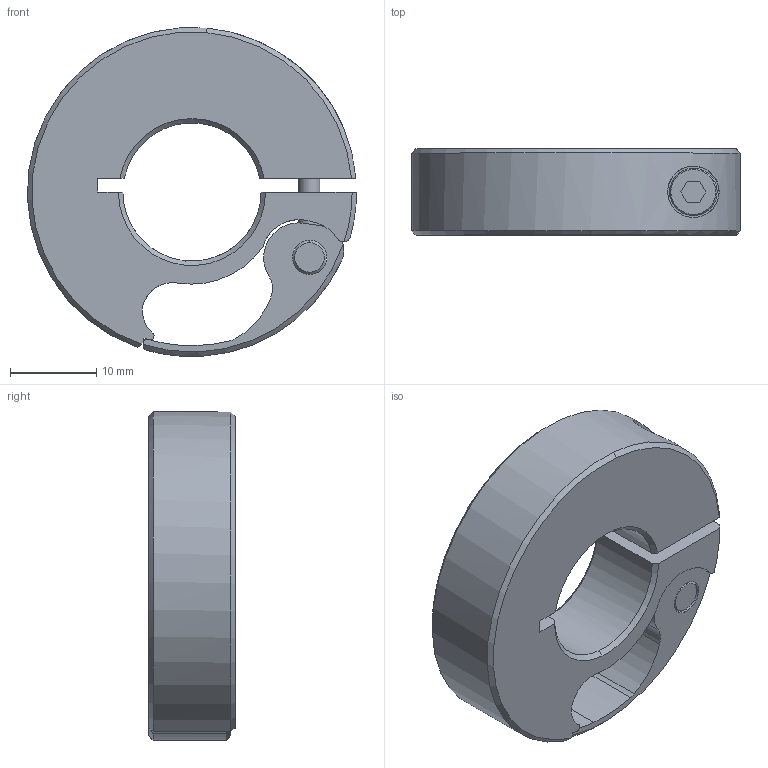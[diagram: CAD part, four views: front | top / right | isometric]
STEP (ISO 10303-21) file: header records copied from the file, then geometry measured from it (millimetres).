
FILE_DESCRIPTION (( 'STEP AP203' ), '1' );
FILE_NAME ('Ruland_MQCL-16-A.step', '2020-08-17T23:01:53', ( '' ), ( '' ), 'SwSTEP 2.0', 'SolidWorks 2020', '' );
FILE_SCHEMA (( 'CONFIG_CONTROL_DESIGN' ));
Length unit declared in the file: millimetre
Products named in the file (5): MQCL38-X-A_MQCL-16-A; QHAN38-A; QPIN38-SS; Ruland_MQCL-16-A; Metric Socket Head Cap Screws 1_CSM3_12
Assembly tree (4 placements, depth 2):
  Ruland_MQCL-16-A
    MQCL38-X-A_MQCL-16-A
    QHAN38-A
    QPIN38-SS
    Metric Socket Head Cap Screws 1_CSM3_12
Bounding box: 38.09 x 10 x 38.03 mm (x, y, z)
Volume: 7646 mm3; surface area: 4769.7 mm2
Topology: 4 solids, 4 shells, 111 faces, 300 edges, 197 vertices
Faces by surface type: cylinder 50, plane 32, cone 27, torus 2
Entity records: 4369 total; most frequent: CARTESIAN_POINT 991, DIRECTION 625, ORIENTED_EDGE 600, EDGE_CURVE 300, AXIS2_PLACEMENT_3D 248, VERTEX_POINT 197, CIRCLE 130, LINE 129
